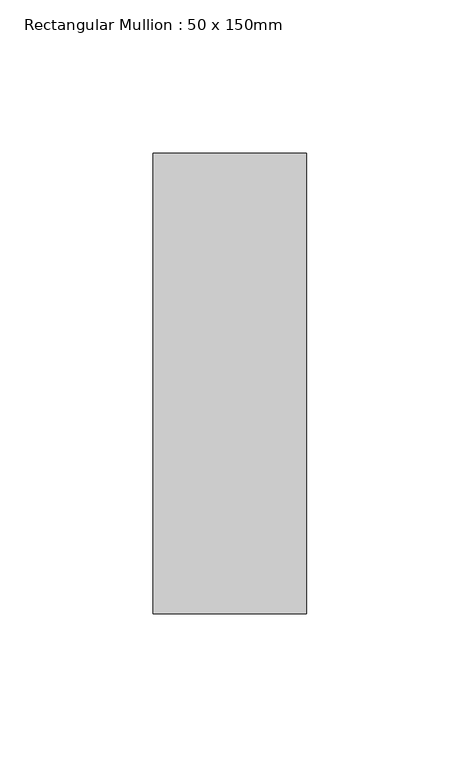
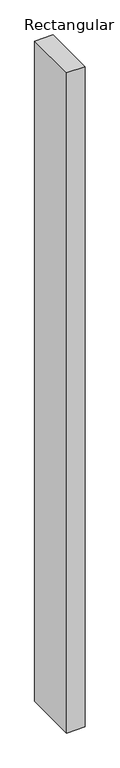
"""IFC4 building model written with IfcOpenShell, lengths in millimetres: member geometry, Rectangular Mullion : 50 x 150mm."""

from ifc_helpers import new_model, si_unit, frame, origin, place, context, project, spatial, polyline, outline, extrude, source, transform, mapped, element, save


def rectangular_mullion_50_x_150mm_6c0a4716(model_context):
    return source(origin(), model_context, "Body", "SweptSolid", [
        extrude(outline(polyline([(25.0, 75.0), (25.0, -75.0), (-25.0, -75.0), (-25.0, 75.0), (25.0, 75.0)])), frame((0.0, 0.0, -1885.0), z_axis=(0.0, 0.0, 1.0), x_axis=(1.0, 0.0, 0.0)), (0.0, 0.0, 1.0), 1885.0),
    ])


if __name__ == "__main__":
    model = new_model("IFC4")
    model_context = context("Model", 3, world=origin())
    ifc_project = project(units=[si_unit("LENGTHUNIT", "METRE", prefix="MILLI")], contexts=[model_context])
    site = spatial("IfcSite", under=ifc_project)
    building = spatial("IfcBuilding", under=site)
    placement = place(None, origin())
    rectangular_mullion_50_x_150mm_shape = rectangular_mullion_50_x_150mm_6c0a4716(model_context)
    element("IfcMember", 1, ObjectType="Rectangular Mullion : 50 x 150mm", at=placement, inside=building, context=model_context, shape_type="MappedRepresentation", body=[
        mapped(rectangular_mullion_50_x_150mm_shape, transform((0.0, 0.0, 0.0), x_axis=(1.0, 0.0, 0.0), y_axis=(0.0, 1.0, 0.0), z_axis=(0.0, 0.0, 1.0))),
    ])
    save(model, "model.ifc")
